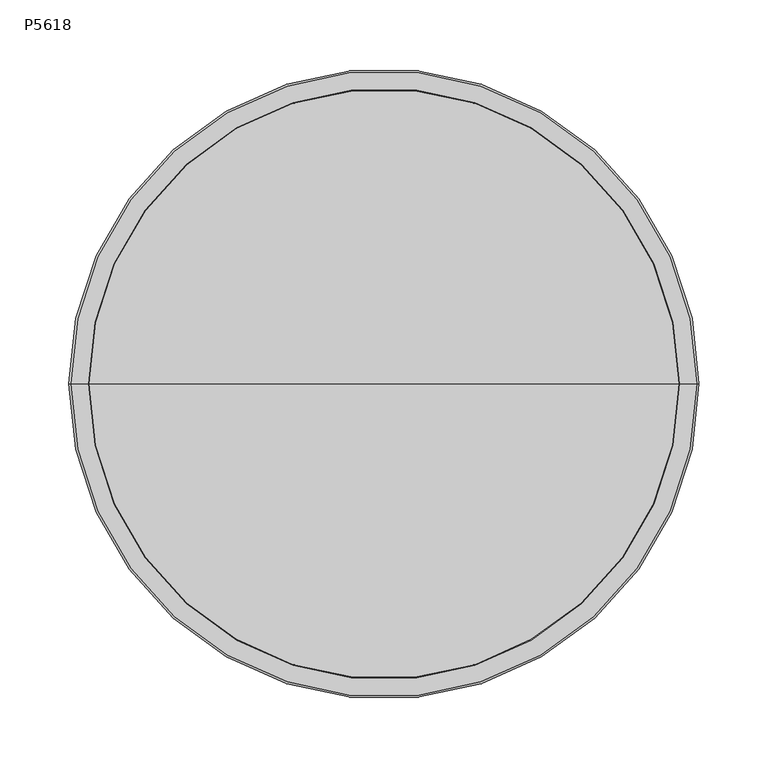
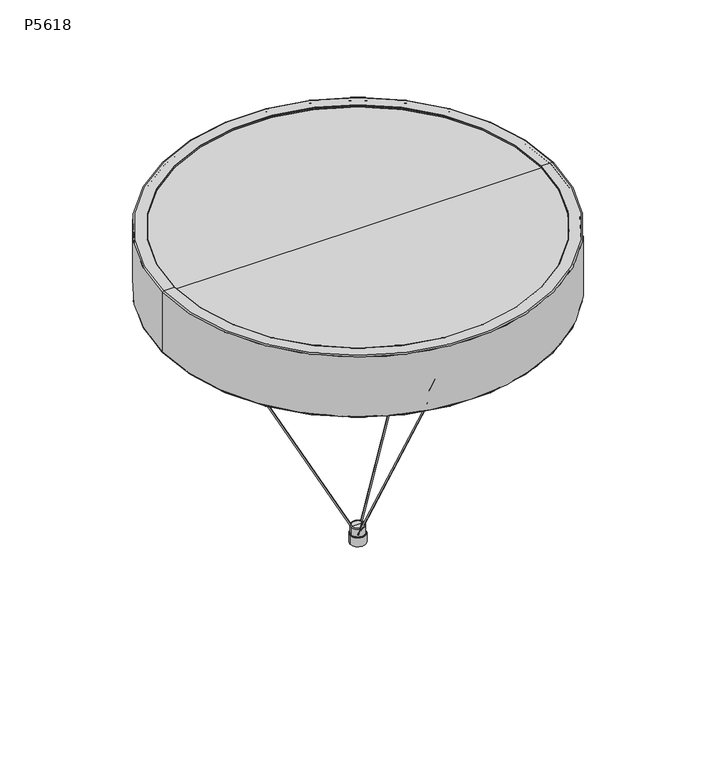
"""IFC4 building model written with IfcOpenShell, lengths in millimetres: light fixture geometry, Impact_Arch_Ltg-waf.r.3 : P5618."""

from ifc_helpers import new_model, si_unit, point, frame, origin, place, context, project, spatial, polyline, circle_curve, ellipse_curve, trimmed, outline, extrude, source, transform, mapped, element, save
from ifc_brep_helpers import plane_surface, cylinder_surface, revolved_surface, advanced_brep


def p5618_7612951a(model_context):
    return source(origin(), model_context, "Body", "SolidModel", [
        extrude(outline(polyline([(-142.7167228, 80.9607305), (-148.0781662, 84.0298999), (-147.406481, 85.2032472), (-142.0450376, 82.1340779), (-142.7167228, 80.9607305)])), frame((0.0, 0.0, 305.5676874), z_axis=(0.0, 0.0, 1.0), x_axis=(1.0, 0.0, 0.0)), (0.0, 0.0, 1.0), 10.7885392),
        advanced_brep(
        [(-139.9573745, 80.1188889, 312.8671987), (-149.9431288, 85.8352546, 312.8671987), (-149.9431288, 85.8352546, 324.2852963), (-139.9573745, 80.1188889, 324.2852963), (-140.3942286, 80.3689669, 312.3638296), (-149.5062747, 85.5851766, 312.3638296), (-144.9502517, 82.9770718, 312.3638296), (-144.9502517, 82.9770718, 324.2852963)],
        [
            (0, 1, circle_curve(frame((-144.9502517, 82.9770718, 312.8671987), z_axis=(0.0, 0.0, 1.0), x_axis=(-0.8678602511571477, 0.49680839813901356, 0.0)), 5.7530889)),
            (1, 2),
            (2, 3, circle_curve(frame((-144.9502517, 82.9770718, 324.2852963), z_axis=(0.0, 0.0, -1.0), x_axis=(-0.8678602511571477, 0.49680839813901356, 0.0)), 5.7530889)),
            (3, 0),
            (1, 0, circle_curve(frame((-144.9502517, 82.9770718, 312.8671987), z_axis=(0.0, 0.0, 1.0), x_axis=(-0.8678602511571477, 0.49680839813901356, 0.0)), 5.7530889)),
            (3, 2, circle_curve(frame((-144.9502517, 82.9770718, 324.2852963), z_axis=(0.0, 0.0, -1.0), x_axis=(-0.8678602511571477, 0.49680839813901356, 0.0)), 5.7530889)),
            (4, 5, circle_curve(frame((-144.9502517, 82.9770718, 312.3638296), z_axis=(0.0, 0.0, 1.0), x_axis=(-0.8678602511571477, 0.49680839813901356, 0.0)), 5.2497197)),
            (5, 1, circle_curve(frame((-149.5062747, 85.5851766, 312.8671987), z_axis=(0.49680839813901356, 0.8678602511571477, 0.0), x_axis=(0.8678602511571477, -0.49680839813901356, 0.0)), 0.5033692)),
            (0, 4, circle_curve(frame((-140.3942286, 80.3689669, 312.8671987), z_axis=(0.49680839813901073, 0.8678602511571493, 0.0), x_axis=(-0.8678602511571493, 0.49680839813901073, 0.0)), 0.5033692)),
            (5, 4, circle_curve(frame((-144.9502517, 82.9770718, 312.3638296), z_axis=(0.0, 0.0, 1.0), x_axis=(-0.8678602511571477, 0.49680839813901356, 0.0)), 5.2497197)),
            (6, 5),
            (4, 6),
            (2, 7),
            (7, 3),
        ],
        [
            cylinder_surface(frame((-144.9502517, 82.9770718, 326.1420888), z_axis=(0.0, 0.0, -1.0), x_axis=(-0.8678602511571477, 0.49680839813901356, 0.0)), 5.7530889),
            revolved_surface(trimmed(ellipse_curve(frame((-149.5062747, 85.5851766, 312.8671987), z_axis=(-0.49680839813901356, -0.8678602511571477, 0.0), x_axis=(0.8678602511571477, -0.49680839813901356, 0.0)), 0.5033692, 0.5033692), [point((-149.9431288, 85.8352546, 312.8671987))], [point((-149.5062747, 85.5851766, 312.3638296))], True, "CARTESIAN"), (-144.9502517, 82.9770718, 326.1420888), (0.0, 0.0, -1.0)),
            plane_surface(frame((-144.9502517, 82.9770718, 312.3638296), z_axis=(0.0, 0.0, -1.0), x_axis=(-0.8678602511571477, 0.49680839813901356, 0.0))),
            plane_surface(frame((-144.9502517, 82.9770718, 324.2852963), z_axis=(0.0, 0.0, 1.0), x_axis=(-0.8678602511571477, 0.49680839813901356, 0.0))),
        ],
        [
            (0, [[1, 2, 3, 4]]),
            (0, [[5, -4, 6, -2]]),
            (1, [[7, 8, -1, 9]]),
            (1, [[10, -9, -5, -8]]),
            (2, [[11, -7, 12]]),
            (2, [[-12, -10, -11]]),
            (3, [[-3, 13, 14]]),
            (3, [[-6, -14, -13]]),
        ],
    ),
        advanced_brep(
        [(-0.6789227, 0.3886507, 14.5666098), (0.519005, -0.2971055, 15.3507425), (0.0, 0.0, 14.7964922), (-129.8973104, 74.3599843, 276.6658339), (-128.6993827, 73.6742282, 277.4499667), (-129.2983465, 74.0171063, 277.0579003)],
        [
            (0, 1, circle_curve(frame((-0.0799588, 0.0457726, 14.9586761), z_axis=(0.4286725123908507, -0.24539446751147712, -0.8694949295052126), x_axis=(0.7546000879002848, -0.4319723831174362, 0.4939418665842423)), 0.79375)),
            (1, 2),
            (2, 0),
            (1, 0, circle_curve(frame((-0.0799588, 0.0457726, 14.9586761), z_axis=(0.4286725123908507, -0.24539446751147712, -0.8694949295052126), x_axis=(0.7546000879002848, -0.4319723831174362, 0.4939418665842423)), 0.79375)),
            (3, 4, circle_curve(frame((-129.2983465, 74.0171063, 277.0579003), z_axis=(0.4286725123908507, -0.24539446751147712, -0.8694949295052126), x_axis=(0.7546000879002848, -0.4319723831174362, 0.4939418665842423)), 0.79375)),
            (4, 1),
            (0, 3),
            (4, 3, circle_curve(frame((-129.2983465, 74.0171063, 277.0579003), z_axis=(0.4286725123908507, -0.24539446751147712, -0.8694949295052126), x_axis=(0.7546000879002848, -0.4319723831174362, 0.4939418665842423)), 0.79375)),
            (5, 4),
            (3, 5),
        ],
        [
            revolved_surface(polyline([(0.0, 0.0, 14.7964922), (0.519005, -0.2971055, 15.3507425)]), (-219.3892436, 125.5898269, 459.7931491), (-0.4286725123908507, 0.24539446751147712, 0.8694949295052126)),
            cylinder_surface(frame((-219.3892436, 125.5898269, 459.7931491), z_axis=(-0.4286725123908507, 0.24539446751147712, 0.8694949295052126), x_axis=(0.7546000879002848, -0.4319723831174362, 0.4939418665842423)), 0.79375),
            plane_surface(frame((-129.2983465, 74.0171063, 277.0579003), z_axis=(-0.42867251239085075, 0.24539446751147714, 0.8694949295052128), x_axis=(0.7546000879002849, -0.43197238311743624, 0.49394186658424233))),
        ],
        [
            (0, [[1, 2, 3]]),
            (0, [[4, -3, -2]]),
            (1, [[5, 6, -1, 7]]),
            (1, [[8, -7, -4, -6]]),
            (2, [[9, -5, 10]]),
            (2, [[-10, -8, -9]]),
        ],
    ),
        advanced_brep(
        [(-130.6460151, 74.7885819, 276.175751), (-127.950678, 73.2456306, 277.9400496), (-129.2983465, 74.0171063, 277.0579003), (-134.0486032, 76.7364005, 283.077367), (-131.353266, 75.1934492, 284.8416656), (-132.7009346, 75.9649248, 283.9595163)],
        [
            (0, 1, circle_curve(frame((-129.2983465, 74.0171063, 277.0579003), z_axis=(0.42867251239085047, -0.24539446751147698, -0.8694949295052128), x_axis=(0.754600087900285, -0.4319723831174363, 0.493941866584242)), 1.7859375)),
            (1, 2),
            (2, 0),
            (1, 0, circle_curve(frame((-129.2983465, 74.0171063, 277.0579003), z_axis=(0.42867251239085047, -0.24539446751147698, -0.8694949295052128), x_axis=(0.754600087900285, -0.4319723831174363, 0.493941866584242)), 1.7859375)),
            (3, 4, circle_curve(frame((-132.7009346, 75.9649248, 283.9595163), z_axis=(0.42867251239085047, -0.24539446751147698, -0.8694949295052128), x_axis=(0.754600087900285, -0.4319723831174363, 0.493941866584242)), 1.7859375)),
            (4, 1),
            (0, 3),
            (4, 3, circle_curve(frame((-132.7009346, 75.9649248, 283.9595163), z_axis=(0.42867251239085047, -0.24539446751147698, -0.8694949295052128), x_axis=(0.754600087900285, -0.4319723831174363, 0.493941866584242)), 1.7859375)),
            (5, 4),
            (3, 5),
        ],
        [
            plane_surface(frame((-129.2983465, 74.0171063, 277.0579003), z_axis=(0.42867251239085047, -0.24539446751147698, -0.8694949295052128), x_axis=(0.754600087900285, -0.4319723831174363, 0.493941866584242))),
            cylinder_surface(frame((-209.4508331, 119.9005632, 439.6346427), z_axis=(-0.42867251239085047, 0.24539446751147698, 0.8694949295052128), x_axis=(0.754600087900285, -0.4319723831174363, 0.493941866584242)), 1.7859375),
            plane_surface(frame((-132.7009346, 75.9649248, 283.9595163), z_axis=(-0.42867251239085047, 0.24539446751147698, 0.8694949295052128), x_axis=(0.754600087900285, -0.4319723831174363, 0.493941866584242))),
        ],
        [
            (0, [[1, 2, 3]]),
            (0, [[4, -3, -2]]),
            (1, [[5, 6, -1, 7]]),
            (1, [[8, -7, -4, -6]]),
            (2, [[9, -5, 10]]),
            (2, [[-10, -8, -9]]),
        ],
    ),
        advanced_brep(
        [(-136.5941994, 78.1936324, 281.411085), (-128.8076698, 73.7362173, 286.5079476), (-132.7009346, 75.9649248, 283.9595163), (-148.8435165, 85.2057793, 306.2569026), (-141.0569868, 80.7483642, 311.3537652), (-144.9502517, 82.9770718, 308.8053339)],
        [
            (0, 1, circle_curve(frame((-132.7009346, 75.9649248, 283.9595163), z_axis=(0.4286725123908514, -0.24539446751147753, -0.8694949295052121), x_axis=(0.7546000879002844, -0.43197238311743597, 0.4939418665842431)), 5.159375)),
            (1, 2),
            (2, 0),
            (1, 0, circle_curve(frame((-132.7009346, 75.9649248, 283.9595163), z_axis=(0.4286725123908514, -0.24539446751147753, -0.8694949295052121), x_axis=(0.7546000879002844, -0.43197238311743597, 0.4939418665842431)), 5.159375)),
            (3, 4, circle_curve(frame((-144.9502517, 82.9770718, 308.8053339), z_axis=(0.4286725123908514, -0.24539446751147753, -0.8694949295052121), x_axis=(0.7546000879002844, -0.43197238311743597, 0.4939418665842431)), 5.159375)),
            (4, 1),
            (0, 3),
            (4, 3, circle_curve(frame((-144.9502517, 82.9770718, 308.8053339), z_axis=(0.4286725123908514, -0.24539446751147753, -0.8694949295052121), x_axis=(0.7546000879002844, -0.43197238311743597, 0.4939418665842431)), 5.159375)),
            (5, 4),
            (3, 5),
        ],
        [
            plane_surface(frame((-132.7009346, 75.9649248, 283.9595163), z_axis=(0.4286725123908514, -0.24539446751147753, -0.8694949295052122), x_axis=(0.7546000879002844, -0.43197238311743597, 0.4939418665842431))),
            cylinder_surface(frame((-125.3859404, 71.7774413, 269.1221983), z_axis=(-0.4286725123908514, 0.24539446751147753, 0.8694949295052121), x_axis=(0.7546000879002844, -0.43197238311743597, 0.4939418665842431)), 5.159375),
            plane_surface(frame((-144.9502517, 82.9770718, 308.8053339), z_axis=(-0.4286725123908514, 0.24539446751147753, 0.8694949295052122), x_axis=(0.7546000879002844, -0.43197238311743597, 0.4939418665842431))),
        ],
        [
            (0, [[1, 2, 3]]),
            (0, [[4, -3, -2]]),
            (1, [[5, 6, -1, 7]]),
            (1, [[8, -7, -4, -6]]),
            (2, [[9, -5, 10]]),
            (2, [[-10, -8, -9]]),
        ],
    ),
        extrude(outline(polyline([(141.1654664, 83.6362), (146.4926865, 86.7643945), (147.1772893, 85.5985369), (141.8500691, 82.4703424), (141.1654664, 83.6362)])), frame((0.0, 0.0, 305.5676874), z_axis=(0.0, 0.0, 1.0), x_axis=(1.0, 0.0, 0.0)), (0.0, 0.0, 1.0), 10.7885392),
        advanced_brep(
        [(139.063998, 81.6597053, 312.8671987), (148.9860113, 87.4860061, 312.8671987), (148.9860113, 87.4860061, 324.2852963), (139.063998, 81.6597053, 324.2852963), (139.4980636, 81.9145928, 312.3638296), (148.5519457, 87.2311187, 312.3638296), (144.0250047, 84.5728557, 312.3638296), (144.0250047, 84.5728557, 324.2852963)],
        [
            (0, 1, circle_curve(frame((144.0250047, 84.5728557, 312.8671987), z_axis=(0.0, 0.0, 1.0), x_axis=(0.862320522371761, 0.5063628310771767, 0.0)), 5.7530889)),
            (1, 2),
            (2, 3, circle_curve(frame((144.0250047, 84.5728557, 324.2852963), z_axis=(0.0, 0.0, -1.0), x_axis=(0.862320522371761, 0.5063628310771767, 0.0)), 5.7530889)),
            (3, 0),
            (1, 0, circle_curve(frame((144.0250047, 84.5728557, 312.8671987), z_axis=(0.0, 0.0, 1.0), x_axis=(0.862320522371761, 0.5063628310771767, 0.0)), 5.7530889)),
            (3, 2, circle_curve(frame((144.0250047, 84.5728557, 324.2852963), z_axis=(0.0, 0.0, -1.0), x_axis=(0.862320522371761, 0.5063628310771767, 0.0)), 5.7530889)),
            (4, 5, circle_curve(frame((144.0250047, 84.5728557, 312.3638296), z_axis=(0.0, 0.0, 1.0), x_axis=(0.862320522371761, 0.5063628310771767, 0.0)), 5.2497197)),
            (5, 1, circle_curve(frame((148.5519457, 87.2311187, 312.8671987), z_axis=(0.5063628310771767, -0.862320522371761, 0.0), x_axis=(-0.862320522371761, -0.5063628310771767, 0.0)), 0.5033692)),
            (0, 4, circle_curve(frame((139.4980636, 81.9145928, 312.8671987), z_axis=(0.5063628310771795, -0.8623205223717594, 0.0), x_axis=(0.8623205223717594, 0.5063628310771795, 0.0)), 0.5033692)),
            (5, 4, circle_curve(frame((144.0250047, 84.5728557, 312.3638296), z_axis=(0.0, 0.0, 1.0), x_axis=(0.862320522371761, 0.5063628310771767, 0.0)), 5.2497197)),
            (6, 5),
            (4, 6),
            (2, 7),
            (7, 3),
        ],
        [
            cylinder_surface(frame((144.0250047, 84.5728557, 326.1420888), z_axis=(0.0, 0.0, -1.0), x_axis=(0.862320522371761, 0.5063628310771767, 0.0)), 5.7530889),
            revolved_surface(trimmed(ellipse_curve(frame((148.5519457, 87.2311187, 312.8671987), z_axis=(-0.5063628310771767, 0.862320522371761, 0.0), x_axis=(-0.862320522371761, -0.5063628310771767, 0.0)), 0.5033692, 0.5033692), [point((148.9860113, 87.4860061, 312.8671987))], [point((148.5519457, 87.2311187, 312.3638296))], True, "CARTESIAN"), (144.0250047, 84.5728557, 326.1420888), (0.0, 0.0, -1.0)),
            plane_surface(frame((144.0250047, 84.5728557, 312.3638296), z_axis=(0.0, 0.0, -1.0000000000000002), x_axis=(0.862320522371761, 0.5063628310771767, 0.0))),
            plane_surface(frame((144.0250047, 84.5728557, 324.2852963), z_axis=(0.0, 0.0, 1.0000000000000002), x_axis=(0.862320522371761, 0.5063628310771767, 0.0))),
        ],
        [
            (0, [[1, 2, 3, 4]]),
            (0, [[5, -4, 6, -2]]),
            (1, [[7, 8, -1, 9]]),
            (1, [[10, -9, -5, -8]]),
            (2, [[11, -7, 12]]),
            (2, [[-12, -10, -11]]),
            (3, [[-3, 13, 14]]),
            (3, [[-6, -14, -13]]),
        ],
    ),
        advanced_brep(
        [(0.674589, 0.3961251, 14.5666098), (-0.5156921, -0.3028193, 15.3507425), (0.0, 0.0, 14.7964922), (129.0681494, 75.7900477, 276.6658339), (127.8778684, 75.0911033, 277.4499667), (128.4730089, 75.4405755, 277.0579003)],
        [
            (0, 1, circle_curve(frame((0.0794484, 0.0466529, 14.9586761), z_axis=(-0.42593620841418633, -0.25011380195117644, -0.8694949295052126), x_axis=(-0.7497833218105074, -0.44027991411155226, 0.4939418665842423)), 0.79375)),
            (1, 2),
            (2, 0),
            (1, 0, circle_curve(frame((0.0794484, 0.0466529, 14.9586761), z_axis=(-0.42593620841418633, -0.25011380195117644, -0.8694949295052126), x_axis=(-0.7497833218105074, -0.44027991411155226, 0.4939418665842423)), 0.79375)),
            (3, 4, circle_curve(frame((128.4730089, 75.4405755, 277.0579003), z_axis=(-0.42593620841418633, -0.25011380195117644, -0.8694949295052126), x_axis=(-0.7497833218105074, -0.44027991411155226, 0.4939418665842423)), 0.79375)),
            (4, 1),
            (0, 3),
            (4, 3, circle_curve(frame((128.4730089, 75.4405755, 277.0579003), z_axis=(-0.42593620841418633, -0.25011380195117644, -0.8694949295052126), x_axis=(-0.7497833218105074, -0.44027991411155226, 0.4939418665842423)), 0.79375)),
            (5, 4),
            (3, 5),
        ],
        [
            revolved_surface(polyline([(0.0, 0.0, 14.7964922), (-0.5156921, -0.3028193, 15.3507425)]), (217.9888374, 128.0051234, 459.7931491), (0.42593620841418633, 0.25011380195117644, 0.8694949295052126)),
            cylinder_surface(frame((217.9888374, 128.0051234, 459.7931491), z_axis=(0.42593620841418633, 0.25011380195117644, 0.8694949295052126), x_axis=(-0.7497833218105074, -0.44027991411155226, 0.4939418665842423)), 0.79375),
            plane_surface(frame((128.4730089, 75.4405755, 277.0579003), z_axis=(0.4259362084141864, 0.2501138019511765, 0.8694949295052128), x_axis=(-0.7497833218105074, -0.4402799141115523, 0.49394186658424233))),
        ],
        [
            (0, [[1, 2, 3]]),
            (0, [[4, -3, -2]]),
            (1, [[5, 6, -1, 7]]),
            (1, [[8, -7, -4, -6]]),
            (2, [[9, -5, 10]]),
            (2, [[-10, -8, -9]]),
        ],
    ),
        advanced_brep(
        [(129.812075, 76.2268879, 276.175751), (127.1339427, 74.6542631, 277.9400496), (128.4730089, 75.4405755, 277.0579003), (133.1929437, 78.2121662, 283.077367), (130.5148114, 76.6395414, 284.8416656), (131.8538775, 77.4258538, 283.9595163)],
        [
            (0, 1, circle_curve(frame((128.4730089, 75.4405755, 277.0579003), z_axis=(-0.42593620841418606, -0.25011380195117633, -0.8694949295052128), x_axis=(-0.7497833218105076, -0.4402799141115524, 0.493941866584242)), 1.7859375)),
            (1, 2),
            (2, 0),
            (1, 0, circle_curve(frame((128.4730089, 75.4405755, 277.0579003), z_axis=(-0.42593620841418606, -0.25011380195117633, -0.8694949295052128), x_axis=(-0.7497833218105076, -0.4402799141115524, 0.493941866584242)), 1.7859375)),
            (3, 4, circle_curve(frame((131.8538775, 77.4258538, 283.9595163), z_axis=(-0.42593620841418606, -0.25011380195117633, -0.8694949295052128), x_axis=(-0.7497833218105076, -0.4402799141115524, 0.493941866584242)), 1.7859375)),
            (4, 1),
            (0, 3),
            (4, 3, circle_curve(frame((131.8538775, 77.4258538, 283.9595163), z_axis=(-0.42593620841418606, -0.25011380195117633, -0.8694949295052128), x_axis=(-0.7497833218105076, -0.4402799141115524, 0.493941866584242)), 1.7859375)),
            (5, 4),
            (3, 5),
        ],
        [
            plane_surface(frame((128.4730089, 75.4405755, 277.0579003), z_axis=(-0.42593620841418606, -0.25011380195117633, -0.869494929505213), x_axis=(-0.7497833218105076, -0.4402799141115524, 0.493941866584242))),
            cylinder_surface(frame((208.1138657, 122.2064459, 439.6346427), z_axis=(0.42593620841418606, 0.25011380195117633, 0.8694949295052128), x_axis=(-0.7497833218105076, -0.4402799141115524, 0.493941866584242)), 1.7859375),
            plane_surface(frame((131.8538775, 77.4258538, 283.9595163), z_axis=(0.42593620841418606, 0.25011380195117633, 0.869494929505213), x_axis=(-0.7497833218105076, -0.4402799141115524, 0.493941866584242))),
        ],
        [
            (0, [[1, 2, 3]]),
            (0, [[4, -3, -2]]),
            (1, [[5, 6, -1, 7]]),
            (1, [[8, -7, -4, -6]]),
            (2, [[9, -5, 10]]),
            (2, [[-10, -8, -9]]),
        ],
    ),
        advanced_brep(
        [(135.7222908, 79.697423, 281.411085), (127.9854642, 75.1542846, 286.5079476), (131.8538775, 77.4258538, 283.9595163), (147.893418, 86.8444249, 306.2569026), (140.1565913, 82.3012865, 311.3537652), (144.0250047, 84.5728557, 308.8053339)],
        [
            (0, 1, circle_curve(frame((131.8538775, 77.4258538, 283.9595163), z_axis=(-0.42593620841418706, -0.2501138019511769, -0.8694949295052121), x_axis=(-0.749783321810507, -0.44027991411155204, 0.4939418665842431)), 5.159375)),
            (1, 2),
            (2, 0),
            (1, 0, circle_curve(frame((131.8538775, 77.4258538, 283.9595163), z_axis=(-0.42593620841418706, -0.2501138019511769, -0.8694949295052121), x_axis=(-0.749783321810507, -0.44027991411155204, 0.4939418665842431)), 5.159375)),
            (3, 4, circle_curve(frame((144.0250047, 84.5728557, 308.8053339), z_axis=(-0.42593620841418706, -0.2501138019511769, -0.8694949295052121), x_axis=(-0.749783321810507, -0.44027991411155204, 0.4939418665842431)), 5.159375)),
            (4, 1),
            (0, 3),
            (4, 3, circle_curve(frame((144.0250047, 84.5728557, 308.8053339), z_axis=(-0.42593620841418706, -0.2501138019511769, -0.8694949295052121), x_axis=(-0.749783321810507, -0.44027991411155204, 0.4939418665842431)), 5.159375)),
            (5, 4),
            (3, 5),
        ],
        [
            plane_surface(frame((131.8538775, 77.4258538, 283.9595163), z_axis=(-0.42593620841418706, -0.2501138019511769, -0.8694949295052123), x_axis=(-0.749783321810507, -0.44027991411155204, 0.4939418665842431))),
            cylinder_surface(frame((124.5855764, 73.1578381, 269.1221983), z_axis=(0.42593620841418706, 0.2501138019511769, 0.8694949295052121), x_axis=(-0.749783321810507, -0.44027991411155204, 0.4939418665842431)), 5.159375),
            plane_surface(frame((144.0250047, 84.5728557, 308.8053339), z_axis=(0.42593620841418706, 0.2501138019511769, 0.8694949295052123), x_axis=(-0.749783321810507, -0.44027991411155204, 0.4939418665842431))),
        ],
        [
            (0, [[1, 2, 3]]),
            (0, [[4, -3, -2]]),
            (1, [[5, 6, -1, 7]]),
            (1, [[8, -7, -4, -6]]),
            (2, [[9, -5, 10]]),
            (2, [[-10, -8, -9]]),
        ],
    ),
        extrude(outline(polyline([(0.6402665, -164.0801417), (0.6402665, -170.2579144), (-0.7117338, -170.2579144), (-0.7117338, -164.0801417), (0.6402665, -164.0801417)])), frame((0.0, 0.0, 305.5676874), z_axis=(0.0, 0.0, 1.0), x_axis=(1.0, 0.0, 0.0)), (0.0, 0.0, 1.0), 10.7885392),
        advanced_brep(
        [(0.0, -161.267179, 312.8671987), (0.0, -172.7733568, 312.8671987), (0.0, -172.7733568, 324.2852963), (0.0, -161.267179, 324.2852963), (0.0, -161.7705482, 312.3638296), (0.0, -172.2699876, 312.3638296), (0.0, -167.0202679, 312.3638296), (0.0, -167.0202679, 324.2852963)],
        [
            (0, 1, circle_curve(frame((0.0, -167.0202679, 312.8671987), z_axis=(0.0, 0.0, 1.0), x_axis=(0.0, -1.0, 0.0)), 5.7530889)),
            (1, 2),
            (2, 3, circle_curve(frame((0.0, -167.0202679, 324.2852963), z_axis=(0.0, 0.0, -1.0), x_axis=(0.0, -1.0, 0.0)), 5.7530889)),
            (3, 0),
            (1, 0, circle_curve(frame((0.0, -167.0202679, 312.8671987), z_axis=(0.0, 0.0, 1.0), x_axis=(0.0, -1.0, 0.0)), 5.7530889)),
            (3, 2, circle_curve(frame((0.0, -167.0202679, 324.2852963), z_axis=(0.0, 0.0, -1.0), x_axis=(0.0, -1.0, 0.0)), 5.7530889)),
            (4, 5, circle_curve(frame((0.0, -167.0202679, 312.3638296), z_axis=(0.0, 0.0, 1.0), x_axis=(0.0, -1.0, 0.0)), 5.2497197)),
            (5, 1, circle_curve(frame((0.0, -172.2699876, 312.8671987), z_axis=(-1.0, 0.0, 0.0), x_axis=(0.0, 1.0, 0.0)), 0.5033692)),
            (0, 4, circle_curve(frame((0.0, -161.7705482, 312.8671987), z_axis=(-1.0, 0.0, 0.0), x_axis=(0.0, -1.0, 0.0)), 0.5033692)),
            (5, 4, circle_curve(frame((0.0, -167.0202679, 312.3638296), z_axis=(0.0, 0.0, 1.0), x_axis=(0.0, -1.0, 0.0)), 5.2497197)),
            (6, 5),
            (4, 6),
            (2, 7),
            (7, 3),
        ],
        [
            cylinder_surface(frame((0.0, -167.0202679, 326.1420888), z_axis=(0.0, 0.0, -1.0), x_axis=(0.0, -1.0, 0.0)), 5.7530889),
            revolved_surface(trimmed(ellipse_curve(frame((0.0, -172.2699876, 312.8671987), z_axis=(1.0, 0.0, 0.0), x_axis=(0.0, 1.0, 0.0)), 0.5033692, 0.5033692), [point((0.0, -172.7733568, 312.8671987))], [point((0.0, -172.2699876, 312.3638296))], True, "CARTESIAN"), (0.0, -167.0202679, 326.1420888), (0.0, 0.0, -1.0)),
            plane_surface(frame((0.0, -167.0202679, 312.3638296), z_axis=(0.0, 0.0, -1.0), x_axis=(0.0, -1.0, 0.0))),
            plane_surface(frame((0.0, -167.0202679, 324.2852963), z_axis=(0.0, 0.0, 1.0), x_axis=(0.0, -1.0, 0.0))),
        ],
        [
            (0, [[1, 2, 3, 4]]),
            (0, [[5, -4, 6, -2]]),
            (1, [[7, 8, -1, 9]]),
            (1, [[10, -9, -5, -8]]),
            (2, [[11, -7, 12]]),
            (2, [[-12, -10, -11]]),
            (3, [[-3, 13, 14]]),
            (3, [[-6, -14, -13]]),
        ],
    ),
        advanced_brep(
        [(0.0, -0.7822949, 14.5666098), (0.0, 0.5980283, 15.3507425), (0.0, 0.0, 14.7964922), (0.0, -149.6753771, 276.6658339), (0.0, -148.2950539, 277.4499667), (0.0, -148.9852155, 277.0579003)],
        [
            (0, 1, circle_curve(frame((0.0, -0.0921333, 14.9586761), z_axis=(0.0, 0.4939418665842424, -0.8694949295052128), x_axis=(0.0, 0.8694949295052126, 0.4939418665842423)), 0.79375)),
            (1, 2),
            (2, 0),
            (1, 0, circle_curve(frame((0.0, -0.0921333, 14.9586761), z_axis=(0.0, 0.4939418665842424, -0.8694949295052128), x_axis=(0.0, 0.8694949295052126, 0.4939418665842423)), 0.79375)),
            (3, 4, circle_curve(frame((0.0, -148.9852155, 277.0579003), z_axis=(0.0, 0.4939418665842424, -0.8694949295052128), x_axis=(0.0, 0.8694949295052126, 0.4939418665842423)), 0.79375)),
            (4, 1),
            (0, 3),
            (4, 3, circle_curve(frame((0.0, -148.9852155, 277.0579003), z_axis=(0.0, 0.4939418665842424, -0.8694949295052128), x_axis=(0.0, 0.8694949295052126, 0.4939418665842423)), 0.79375)),
            (5, 4),
            (3, 5),
        ],
        [
            revolved_surface(polyline([(0.0, 0.0, 14.7964922), (0.0, 0.5980283, 15.3507425)]), (0.0, -252.7932848, 459.7931491), (0.0, -0.4939418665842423, 0.8694949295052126)),
            cylinder_surface(frame((0.0, -252.7932848, 459.7931491), z_axis=(0.0, -0.4939418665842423, 0.8694949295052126), x_axis=(0.0, 0.8694949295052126, 0.4939418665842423)), 0.79375),
            plane_surface(frame((0.0, -148.9852155, 277.0579003), z_axis=(0.0, -0.49394186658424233, 0.8694949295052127), x_axis=(0.0, 0.8694949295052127, 0.49394186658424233))),
        ],
        [
            (0, [[1, 2, 3]]),
            (0, [[4, -3, -2]]),
            (1, [[5, 6, -1, 7]]),
            (1, [[8, -7, -4, -6]]),
            (2, [[9, -5, 10]]),
            (2, [[-10, -8, -9]]),
        ],
    ),
        advanced_brep(
        [(0.0, -150.5380791, 276.175751), (0.0, -147.4323519, 277.9400496), (0.0, -148.9852155, 277.0579003), (0.0, -154.4587427, 283.077367), (0.0, -151.3530155, 284.8416656), (0.0, -152.9058791, 283.9595163)],
        [
            (0, 1, circle_curve(frame((0.0, -148.9852155, 277.0579003), z_axis=(0.0, 0.493941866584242, -0.8694949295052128), x_axis=(0.0, 0.8694949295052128, 0.493941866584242)), 1.7859375)),
            (1, 2),
            (2, 0),
            (1, 0, circle_curve(frame((0.0, -148.9852155, 277.0579003), z_axis=(0.0, 0.493941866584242, -0.8694949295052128), x_axis=(0.0, 0.8694949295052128, 0.493941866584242)), 1.7859375)),
            (3, 4, circle_curve(frame((0.0, -152.9058791, 283.9595163), z_axis=(0.0, 0.493941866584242, -0.8694949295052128), x_axis=(0.0, 0.8694949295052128, 0.493941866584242)), 1.7859375)),
            (4, 1),
            (0, 3),
            (4, 3, circle_curve(frame((0.0, -152.9058791, 283.9595163), z_axis=(0.0, 0.493941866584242, -0.8694949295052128), x_axis=(0.0, 0.8694949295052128, 0.493941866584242)), 1.7859375)),
            (5, 4),
            (3, 5),
        ],
        [
            plane_surface(frame((0.0, -148.9852155, 277.0579003), z_axis=(0.0, 0.493941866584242, -0.8694949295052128), x_axis=(0.0, 0.8694949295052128, 0.493941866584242))),
            cylinder_surface(frame((0.0, -241.3416593, 439.6346427), z_axis=(0.0, -0.493941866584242, 0.8694949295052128), x_axis=(0.0, 0.8694949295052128, 0.493941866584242)), 1.7859375),
            plane_surface(frame((0.0, -152.9058791, 283.9595163), z_axis=(0.0, -0.493941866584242, 0.8694949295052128), x_axis=(0.0, 0.8694949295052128, 0.493941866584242))),
        ],
        [
            (0, [[1, 2, 3]]),
            (0, [[4, -3, -2]]),
            (1, [[5, 6, -1, 7]]),
            (1, [[8, -7, -4, -6]]),
            (2, [[9, -5, 10]]),
            (2, [[-10, -8, -9]]),
        ],
    ),
        advanced_brep(
        [(0.0, -157.3919295, 281.411085), (0.0, -148.4198287, 286.5079476), (0.0, -152.9058791, 283.9595163), (0.0, -171.5063183, 306.2569026), (0.0, -162.5342175, 311.3537652), (0.0, -167.0202679, 308.8053339)],
        [
            (0, 1, circle_curve(frame((0.0, -152.9058791, 283.9595163), z_axis=(0.0, 0.4939418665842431, -0.8694949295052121), x_axis=(0.0, 0.8694949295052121, 0.4939418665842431)), 5.159375)),
            (1, 2),
            (2, 0),
            (1, 0, circle_curve(frame((0.0, -152.9058791, 283.9595163), z_axis=(0.0, 0.4939418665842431, -0.8694949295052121), x_axis=(0.0, 0.8694949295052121, 0.4939418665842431)), 5.159375)),
            (3, 4, circle_curve(frame((0.0, -167.0202679, 308.8053339), z_axis=(0.0, 0.4939418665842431, -0.8694949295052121), x_axis=(0.0, 0.8694949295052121, 0.4939418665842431)), 5.159375)),
            (4, 1),
            (0, 3),
            (4, 3, circle_curve(frame((0.0, -167.0202679, 308.8053339), z_axis=(0.0, 0.4939418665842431, -0.8694949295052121), x_axis=(0.0, 0.8694949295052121, 0.4939418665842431)), 5.159375)),
            (5, 4),
            (3, 5),
        ],
        [
            plane_surface(frame((0.0, -152.9058791, 283.9595163), z_axis=(0.0, 0.4939418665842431, -0.8694949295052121), x_axis=(0.0, 0.8694949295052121, 0.4939418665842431))),
            cylinder_surface(frame((0.0, -144.4771093, 269.1221983), z_axis=(0.0, -0.4939418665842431, 0.8694949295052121), x_axis=(0.0, 0.8694949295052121, 0.4939418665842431)), 5.159375),
            plane_surface(frame((0.0, -167.0202679, 308.8053339), z_axis=(0.0, -0.4939418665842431, 0.8694949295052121), x_axis=(0.0, 0.8694949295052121, 0.4939418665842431))),
        ],
        [
            (0, [[1, 2, 3]]),
            (0, [[4, -3, -2]]),
            (1, [[5, 6, -1, 7]]),
            (1, [[8, -7, -4, -6]]),
            (2, [[9, -5, 10]]),
            (2, [[-10, -8, -9]]),
        ],
    ),
        advanced_brep(
        [(-226.0242615, 0.0, 326.1995), (226.0242615, 0.0, 326.1995), (226.0242615, 0.0, 324.0913), (-226.0242615, 0.0, 324.0913), (0.0, 0.0, 324.0913), (0.0, 0.0, 326.1995)],
        [
            (0, 1, circle_curve(frame((0.0, 0.0, 326.1995), z_axis=(0.0, 0.0, -1.0), x_axis=(1.0, 0.0, 0.0)), 226.0242615)),
            (1, 2),
            (2, 3, circle_curve(frame((0.0, 0.0, 324.0913), z_axis=(0.0, 0.0, 1.0), x_axis=(1.0, 0.0, 0.0)), 226.0242615)),
            (3, 0),
            (1, 0, circle_curve(frame((0.0, 0.0, 326.1995), z_axis=(0.0, 0.0, -1.0), x_axis=(1.0, 0.0, 0.0)), 226.0242615)),
            (3, 2, circle_curve(frame((0.0, 0.0, 324.0913), z_axis=(0.0, 0.0, 1.0), x_axis=(1.0, 0.0, 0.0)), 226.0242615)),
            (2, 4),
            (4, 3),
            (5, 1),
            (0, 5),
        ],
        [
            cylinder_surface(frame((0.0, 0.0, 327.3163161), z_axis=(0.0, 0.0, 1.0), x_axis=(1.0, 0.0, 0.0)), 226.0242615),
            plane_surface(frame((0.0, 0.0, 324.0913), z_axis=(0.0, 0.0, -1.0), x_axis=(1.0, 0.0, 0.0))),
            plane_surface(frame((0.0, 0.0, 326.1995), z_axis=(0.0, 0.0, 1.0), x_axis=(1.0, 0.0, 0.0))),
        ],
        [
            (0, [[1, 2, 3, 4]]),
            (0, [[5, -4, 6, -2]]),
            (1, [[-3, 7, 8]]),
            (1, [[-6, -8, -7]]),
            (2, [[9, -1, 10]]),
            (2, [[-10, -5, -9]]),
        ],
    ),
        advanced_brep(
        [(-216.096004, 0.0, 393.7635), (216.096004, 0.0, 393.7635), (216.096004, 0.0, 390.7663), (-216.096004, 0.0, 390.7663), (0.0, 0.0, 393.7635), (0.0, 0.0, 390.7663)],
        [
            (0, 1, circle_curve(frame((0.0, 0.0, 393.7635), z_axis=(0.0, 0.0, -1.0), x_axis=(1.0, 0.0, 0.0)), 216.096004)),
            (1, 2),
            (2, 3, circle_curve(frame((0.0, 0.0, 390.7663), z_axis=(0.0, 0.0, 1.0), x_axis=(1.0, 0.0, 0.0)), 216.096004)),
            (3, 0),
            (1, 0, circle_curve(frame((0.0, 0.0, 393.7635), z_axis=(0.0, 0.0, -1.0), x_axis=(1.0, 0.0, 0.0)), 216.096004)),
            (3, 2, circle_curve(frame((0.0, 0.0, 390.7663), z_axis=(0.0, 0.0, 1.0), x_axis=(1.0, 0.0, 0.0)), 216.096004)),
            (4, 1),
            (0, 4),
            (2, 5),
            (5, 3),
        ],
        [
            cylinder_surface(frame((0.0, 0.0, 403.2245462), z_axis=(0.0, 0.0, 1.0), x_axis=(1.0, 0.0, 0.0)), 216.096004),
            plane_surface(frame((0.0, 0.0, 393.7635), z_axis=(0.0, 0.0, 1.0), x_axis=(1.0, 0.0, 0.0))),
            plane_surface(frame((0.0, 0.0, 390.7663), z_axis=(0.0, 0.0, -1.0), x_axis=(1.0, 0.0, 0.0))),
        ],
        [
            (0, [[1, 2, 3, 4]]),
            (0, [[5, -4, 6, -2]]),
            (1, [[7, -1, 8]]),
            (1, [[-8, -5, -7]]),
            (2, [[-3, 9, 10]]),
            (2, [[-6, -10, -9]]),
        ],
    ),
        advanced_brep(
        [(-144.4422196, 0.0, 323.5698751), (144.4422196, 0.0, 323.5698751), (146.0959682, 0.0, 324.0913), (-146.0959682, 0.0, 324.0913), (-101.0348362, 0.0, 293.1756979), (101.0348362, 0.0, 293.1756979), (-99.5162831, 0.0, 292.6969), (99.5162831, 0.0, 292.6969), (0.0, 0.0, 292.6969), (-99.9761841, 0.0, 291.0713), (99.9761841, 0.0, 291.0713), (0.0, 0.0, 291.0713), (-101.6303499, 0.0, 291.5928565), (101.6303499, 0.0, 291.5928565), (-145.2654931, 0.0, 322.1465127), (145.2654931, 0.0, 322.1465127), (-146.2778259, 0.0, 322.4657), (146.2778259, 0.0, 322.4657), (-158.75, 0.0, 322.4657), (158.75, 0.0, 322.4657), (-158.75, 0.0, 324.0913), (158.75, 0.0, 324.0913)],
        [
            (0, 1, circle_curve(frame((0.0, 0.0, 323.5698751), z_axis=(0.0, 0.0, -1.0), x_axis=(1.0, 0.0, 0.0)), 144.4422196)),
            (1, 2, circle_curve(frame((146.0959682, 0.0, 321.2080773), z_axis=(0.0, 1.0, 0.0), x_axis=(1.0, 0.0, 0.0)), 2.8832227)),
            (2, 3, circle_curve(frame((0.0, 0.0, 324.0913), z_axis=(0.0, 0.0, 1.0), x_axis=(1.0, 0.0, 0.0)), 146.0959682)),
            (3, 0, circle_curve(frame((-146.0959682, 0.0, 321.2080773), z_axis=(0.0, 1.0, 0.0), x_axis=(-1.0, 0.0, 0.0)), 2.8832227)),
            (1, 0, circle_curve(frame((0.0, 0.0, 323.5698751), z_axis=(0.0, 0.0, -1.0), x_axis=(1.0, 0.0, 0.0)), 144.4422196)),
            (3, 2, circle_curve(frame((0.0, 0.0, 324.0913), z_axis=(0.0, 0.0, 1.0), x_axis=(1.0, 0.0, 0.0)), 146.0959682)),
            (4, 5, circle_curve(frame((0.0, 0.0, 293.1756979), z_axis=(0.0, 0.0, -1.0), x_axis=(1.0, 0.0, 0.0)), 101.0348362)),
            (5, 1),
            (0, 4),
            (5, 4, circle_curve(frame((0.0, 0.0, 293.1756979), z_axis=(0.0, 0.0, -1.0), x_axis=(1.0, 0.0, 0.0)), 101.0348362)),
            (6, 7, circle_curve(frame((0.0, 0.0, 292.6969), z_axis=(0.0, 0.0, -1.0), x_axis=(1.0, 0.0, 0.0)), 99.5162831)),
            (7, 5, circle_curve(frame((99.5162831, 0.0, 295.3444165), z_axis=(0.0, -1.0, 0.0), x_axis=(1.0, 0.0, 0.0)), 2.6475165)),
            (4, 6, circle_curve(frame((-99.5162831, 0.0, 295.3444165), z_axis=(0.0, -1.0, 0.0), x_axis=(-1.0, 0.0, 0.0)), 2.6475165)),
            (7, 6, circle_curve(frame((0.0, 0.0, 292.6969), z_axis=(0.0, 0.0, -1.0), x_axis=(1.0, 0.0, 0.0)), 99.5162831)),
            (8, 7),
            (6, 8),
            (9, 10, circle_curve(frame((0.0, 0.0, 291.0713), z_axis=(0.0, 0.0, -1.0), x_axis=(1.0, 0.0, 0.0)), 99.9761841)),
            (10, 11),
            (11, 9),
            (10, 9, circle_curve(frame((0.0, 0.0, 291.0713), z_axis=(0.0, 0.0, -1.0), x_axis=(1.0, 0.0, 0.0)), 99.9761841)),
            (12, 13, circle_curve(frame((0.0, 0.0, 291.5928565), z_axis=(0.0, 0.0, -1.0), x_axis=(1.0, 0.0, 0.0)), 101.6303499)),
            (13, 10, circle_curve(frame((99.9761841, 0.0, 293.95525), z_axis=(0.0, 1.0, 0.0), x_axis=(1.0, 0.0, 0.0)), 2.88395)),
            (9, 12, circle_curve(frame((-99.9761841, 0.0, 293.95525), z_axis=(0.0, 1.0, 0.0), x_axis=(-1.0, 0.0, 0.0)), 2.88395)),
            (13, 12, circle_curve(frame((0.0, 0.0, 291.5928565), z_axis=(0.0, 0.0, -1.0), x_axis=(1.0, 0.0, 0.0)), 101.6303499)),
            (14, 15, circle_curve(frame((0.0, 0.0, 322.1465127), z_axis=(0.0, 0.0, -1.0), x_axis=(1.0, 0.0, 0.0)), 145.2654931)),
            (15, 13),
            (12, 14),
            (15, 14, circle_curve(frame((0.0, 0.0, 322.1465127), z_axis=(0.0, 0.0, -1.0), x_axis=(1.0, 0.0, 0.0)), 145.2654931)),
            (16, 17, circle_curve(frame((0.0, 0.0, 322.4657), z_axis=(0.0, 0.0, -1.0), x_axis=(1.0, 0.0, 0.0)), 146.2778259)),
            (17, 15, circle_curve(frame((146.2778259, 0.0, 320.7007517), z_axis=(0.0, -1.0, 0.0), x_axis=(1.0, 0.0, 0.0)), 1.7649483)),
            (14, 16, circle_curve(frame((-146.2778259, 0.0, 320.7007517), z_axis=(0.0, -1.0, 0.0), x_axis=(-1.0, 0.0, 0.0)), 1.7649483)),
            (17, 16, circle_curve(frame((0.0, 0.0, 322.4657), z_axis=(0.0, 0.0, -1.0), x_axis=(1.0, 0.0, 0.0)), 146.2778259)),
            (18, 19, circle_curve(frame((0.0, 0.0, 322.4657), z_axis=(0.0, 0.0, -1.0), x_axis=(1.0, 0.0, 0.0)), 158.75)),
            (19, 17),
            (16, 18),
            (19, 18, circle_curve(frame((0.0, 0.0, 322.4657), z_axis=(0.0, 0.0, -1.0), x_axis=(1.0, 0.0, 0.0)), 158.75)),
            (20, 21, circle_curve(frame((0.0, 0.0, 324.0913), z_axis=(0.0, 0.0, -1.0), x_axis=(1.0, 0.0, 0.0)), 158.75)),
            (21, 19),
            (18, 20),
            (21, 20, circle_curve(frame((0.0, 0.0, 324.0913), z_axis=(0.0, 0.0, -1.0), x_axis=(1.0, 0.0, 0.0)), 158.75)),
            (2, 21),
            (20, 3),
        ],
        [
            revolved_surface(trimmed(ellipse_curve(frame((146.0959682, 0.0, 321.2080773), z_axis=(0.0, -1.0, 0.0), x_axis=(1.0, 0.0, 0.0)), 2.8832227, 2.8832227), [point((146.0959682, 0.0, 324.0913))], [point((144.4422196, 0.0, 323.5698751))], True, "CARTESIAN"), (0.0, 0.0, 364.5535), (0.0, 0.0, 1.0)),
            revolved_surface(polyline([(144.4422196, 0.0, 323.5698751), (101.0348362, 0.0, 293.1756979)]), (0.0, 0.0, 364.5535), (0.0, 0.0, 1.0)),
            revolved_surface(trimmed(ellipse_curve(frame((99.5162831, 0.0, 295.3444165), z_axis=(0.0, 1.0, 0.0), x_axis=(1.0, 0.0, 0.0)), 2.6475165, 2.6475165), [point((101.0348362, 0.0, 293.1756979))], [point((99.5162831, 0.0, 292.6969))], True, "CARTESIAN"), (0.0, 0.0, 364.5535), (0.0, 0.0, 1.0)),
            plane_surface(frame((0.0, 0.0, 292.6969), z_axis=(0.0, 0.0, 1.0), x_axis=(1.0, 0.0, 0.0))),
            plane_surface(frame((0.0, 0.0, 291.0713), z_axis=(0.0, 0.0, -1.0), x_axis=(1.0, 0.0, 0.0))),
            revolved_surface(trimmed(ellipse_curve(frame((99.9761841, 0.0, 293.95525), z_axis=(0.0, -1.0, 0.0), x_axis=(1.0, 0.0, 0.0)), 2.88395, 2.88395), [point((99.9761841, 0.0, 291.0713))], [point((101.6303499, 0.0, 291.5928565))], True, "CARTESIAN"), (0.0, 0.0, 364.5535), (0.0, 0.0, 1.0)),
            revolved_surface(polyline([(101.6303499, 0.0, 291.5928565), (145.2654931, 0.0, 322.1465127)]), (0.0, 0.0, 364.5535), (0.0, 0.0, 1.0)),
            revolved_surface(trimmed(ellipse_curve(frame((146.2778259, 0.0, 320.7007517), z_axis=(0.0, 1.0, 0.0), x_axis=(1.0, 0.0, 0.0)), 1.7649483, 1.7649483), [point((145.2654932, 0.0, 322.1465127))], [point((146.2778259, 0.0, 322.4657))], True, "CARTESIAN"), (0.0, 0.0, 364.5535), (0.0, 0.0, 1.0)),
            plane_surface(frame((0.0, 0.0, 322.4657), z_axis=(0.0, 0.0, -1.0), x_axis=(1.0, 0.0, 0.0))),
            cylinder_surface(frame((0.0, 0.0, 364.5535), z_axis=(0.0, 0.0, 1.0), x_axis=(1.0, 0.0, 0.0)), 158.75),
            plane_surface(frame((0.0, 0.0, 324.0913), z_axis=(0.0, 0.0, 1.0), x_axis=(1.0, 0.0, 0.0))),
        ],
        [
            (0, [[1, 2, 3, 4]]),
            (0, [[5, -4, 6, -2]]),
            (1, [[7, 8, -1, 9]]),
            (1, [[10, -9, -5, -8]]),
            (2, [[11, 12, -7, 13]]),
            (2, [[14, -13, -10, -12]]),
            (3, [[15, -11, 16]]),
            (3, [[-16, -14, -15]]),
            (4, [[17, 18, 19]]),
            (4, [[20, -19, -18]]),
            (5, [[21, 22, -17, 23]]),
            (5, [[24, -23, -20, -22]]),
            (6, [[25, 26, -21, 27]]),
            (6, [[28, -27, -24, -26]]),
            (7, [[29, 30, -25, 31]]),
            (7, [[32, -31, -28, -30]]),
            (8, [[33, 34, -29, 35]]),
            (8, [[36, -35, -32, -34]]),
            (9, [[37, 38, -33, 39]]),
            (9, [[40, -39, -36, -38]]),
            (10, [[-3, 41, -37, 42]]),
            (10, [[-6, -42, -40, -41]]),
        ],
    ),
        advanced_brep(
        [(-225.4192171, 0.0, 393.7646471), (225.4192171, 0.0, 393.7646471), (214.5969575, 0.0, 393.7646471), (-214.5969575, 0.0, 393.7646471), (-226.0242615, 0.0, 393.1596027), (226.0242615, 0.0, 393.1596027), (-226.0242615, 0.0, 320.1035), (226.0242615, 0.0, 320.1035), (-227.2792663, 0.0, 320.1035), (227.2792663, 0.0, 320.1035), (-228.6, 0.0, 321.4242337), (228.6, 0.0, 321.4242337), (-228.6, 0.0, 395.0109421), (228.6, 0.0, 395.0109421), (-227.3074421, 0.0, 396.3035), (227.3074421, 0.0, 396.3035), (-214.5885371, 0.0, 396.3035), (214.5885371, 0.0, 396.3035), (-214.0906432, 0.0, 394.2709614), (214.0906432, 0.0, 394.2709614), (214.0906432, 0.0, 395.8056061), (-214.0906432, 0.0, 395.8056061)],
        [
            (0, 1, circle_curve(frame((0.0, 0.0, 393.7646471), z_axis=(0.0, 0.0, -1.0), x_axis=(1.0, 0.0, 0.0)), 225.4192171)),
            (1, 2),
            (2, 3, circle_curve(frame((0.0, 0.0, 393.7646471), z_axis=(0.0, 0.0, 1.0), x_axis=(1.0, 0.0, 0.0)), 214.5969575)),
            (3, 0),
            (1, 0, circle_curve(frame((0.0, 0.0, 393.7646471), z_axis=(0.0, 0.0, -1.0), x_axis=(1.0, 0.0, 0.0)), 225.4192171)),
            (3, 2, circle_curve(frame((0.0, 0.0, 393.7646471), z_axis=(0.0, 0.0, 1.0), x_axis=(1.0, 0.0, 0.0)), 214.5969575)),
            (4, 5, circle_curve(frame((0.0, 0.0, 393.1596027), z_axis=(0.0, 0.0, -1.0), x_axis=(1.0, 0.0, 0.0)), 226.0242615)),
            (5, 1, circle_curve(frame((225.4192171, 0.0, 393.1596027), z_axis=(0.0, -1.0, 0.0), x_axis=(1.0, 0.0, 0.0)), 0.6050444)),
            (0, 4, circle_curve(frame((-225.4192171, 0.0, 393.1596027), z_axis=(0.0, -1.0, 0.0), x_axis=(-1.0, 0.0, 0.0)), 0.6050444)),
            (5, 4, circle_curve(frame((0.0, 0.0, 393.1596027), z_axis=(0.0, 0.0, -1.0), x_axis=(1.0, 0.0, 0.0)), 226.0242615)),
            (6, 7, circle_curve(frame((0.0, 0.0, 320.1035), z_axis=(0.0, 0.0, -1.0), x_axis=(1.0, 0.0, 0.0)), 226.0242615)),
            (7, 5),
            (4, 6),
            (7, 6, circle_curve(frame((0.0, 0.0, 320.1035), z_axis=(0.0, 0.0, -1.0), x_axis=(1.0, 0.0, 0.0)), 226.0242615)),
            (8, 9, circle_curve(frame((0.0, 0.0, 320.1035), z_axis=(0.0, 0.0, -1.0), x_axis=(1.0, 0.0, 0.0)), 227.2792663)),
            (9, 7),
            (6, 8),
            (9, 8, circle_curve(frame((0.0, 0.0, 320.1035), z_axis=(0.0, 0.0, -1.0), x_axis=(1.0, 0.0, 0.0)), 227.2792663)),
            (10, 11, circle_curve(frame((0.0, 0.0, 321.4242337), z_axis=(0.0, 0.0, -1.0), x_axis=(1.0, 0.0, 0.0)), 228.6)),
            (11, 9, circle_curve(frame((227.2792663, 0.0, 321.4242337), z_axis=(0.0, 1.0, 0.0), x_axis=(1.0, 0.0, 0.0)), 1.3207337)),
            (8, 10, circle_curve(frame((-227.2792663, 0.0, 321.4242337), z_axis=(0.0, 1.0, 0.0), x_axis=(-1.0, 0.0, 0.0)), 1.3207337)),
            (11, 10, circle_curve(frame((0.0, 0.0, 321.4242337), z_axis=(0.0, 0.0, -1.0), x_axis=(1.0, 0.0, 0.0)), 228.6)),
            (12, 13, circle_curve(frame((0.0, 0.0, 395.0109421), z_axis=(0.0, 0.0, -1.0), x_axis=(1.0, 0.0, 0.0)), 228.6)),
            (13, 11),
            (10, 12),
            (13, 12, circle_curve(frame((0.0, 0.0, 395.0109421), z_axis=(0.0, 0.0, -1.0), x_axis=(1.0, 0.0, 0.0)), 228.6)),
            (14, 15, circle_curve(frame((0.0, 0.0, 396.3035), z_axis=(0.0, 0.0, -1.0), x_axis=(1.0, 0.0, 0.0)), 227.3074421)),
            (15, 13, circle_curve(frame((227.3074421, 0.0, 395.0109421), z_axis=(0.0, 1.0, 0.0), x_axis=(1.0, 0.0, 0.0)), 1.2925579)),
            (12, 14, circle_curve(frame((-227.3074421, 0.0, 395.0109421), z_axis=(0.0, 1.0, 0.0), x_axis=(-1.0, 0.0, 0.0)), 1.2925579)),
            (15, 14, circle_curve(frame((0.0, 0.0, 396.3035), z_axis=(0.0, 0.0, -1.0), x_axis=(1.0, 0.0, 0.0)), 227.3074421)),
            (16, 17, circle_curve(frame((0.0, 0.0, 396.3035), z_axis=(0.0, 0.0, -1.0), x_axis=(1.0, 0.0, 0.0)), 214.5885371)),
            (17, 15),
            (14, 16),
            (17, 16, circle_curve(frame((0.0, 0.0, 396.3035), z_axis=(0.0, 0.0, -1.0), x_axis=(1.0, 0.0, 0.0)), 214.5885371)),
            (18, 19, circle_curve(frame((0.0, 0.0, 394.2709614), z_axis=(0.0, 0.0, -1.0), x_axis=(1.0, 0.0, 0.0)), 214.0906432)),
            (19, 20),
            (20, 21, circle_curve(frame((0.0, 0.0, 395.8056061), z_axis=(0.0, 0.0, 1.0), x_axis=(1.0, 0.0, 0.0)), 214.0906432)),
            (21, 18),
            (19, 18, circle_curve(frame((0.0, 0.0, 394.2709614), z_axis=(0.0, 0.0, -1.0), x_axis=(1.0, 0.0, 0.0)), 214.0906432)),
            (21, 20, circle_curve(frame((0.0, 0.0, 395.8056061), z_axis=(0.0, 0.0, 1.0), x_axis=(1.0, 0.0, 0.0)), 214.0906432)),
            (2, 19, circle_curve(frame((214.5969575, 0.0, 394.2709614), z_axis=(0.0, 1.0, 0.0), x_axis=(1.0, 0.0, 0.0)), 0.5063143)),
            (18, 3, circle_curve(frame((-214.5969575, 0.0, 394.2709614), z_axis=(0.0, 1.0, 0.0), x_axis=(-1.0, 0.0, 0.0)), 0.5063143)),
            (20, 17, circle_curve(frame((214.5885371, 0.0, 395.8056061), z_axis=(0.0, 1.0, 0.0), x_axis=(1.0, 0.0, 0.0)), 0.4978939)),
            (16, 21, circle_curve(frame((-214.5885371, 0.0, 395.8056061), z_axis=(0.0, 1.0, 0.0), x_axis=(-1.0, 0.0, 0.0)), 0.4978939)),
        ],
        [
            plane_surface(frame((0.0, 0.0, 393.7646471), z_axis=(0.0, 0.0, -1.0), x_axis=(1.0, 0.0, 0.0))),
            revolved_surface(trimmed(ellipse_curve(frame((225.4192171, 0.0, 393.1596027), z_axis=(0.0, 1.0, 0.0), x_axis=(1.0, 0.0, 0.0)), 0.6050444, 0.6050444), [point((225.4192171, 0.0, 393.7646471))], [point((226.0242615, 0.0, 393.1596027))], True, "CARTESIAN"), (0.0, 0.0, 447.1035), (0.0, 0.0, 1.0)),
            revolved_surface(polyline([(226.0242615, 0.0, 393.1596027), (226.0242615, 0.0, 320.1035)]), (0.0, 0.0, 447.1035), (0.0, 0.0, 1.0)),
            plane_surface(frame((0.0, 0.0, 320.1035), z_axis=(0.0, 0.0, -1.0), x_axis=(1.0, 0.0, 0.0))),
            revolved_surface(trimmed(ellipse_curve(frame((227.2792663, 0.0, 321.4242337), z_axis=(0.0, -1.0, 0.0), x_axis=(1.0, 0.0, 0.0)), 1.3207337, 1.3207337), [point((227.2792663, 0.0, 320.1035))], [point((228.6, 0.0, 321.4242337))], True, "CARTESIAN"), (0.0, 0.0, 447.1035), (0.0, 0.0, 1.0)),
            cylinder_surface(frame((0.0, 0.0, 447.1035), z_axis=(0.0, 0.0, 1.0), x_axis=(1.0, 0.0, 0.0)), 228.6),
            revolved_surface(trimmed(ellipse_curve(frame((227.3074421, 0.0, 395.0109421), z_axis=(0.0, -1.0, 0.0), x_axis=(1.0, 0.0, 0.0)), 1.2925579, 1.2925579), [point((228.6, 0.0, 395.0109421))], [point((227.3074421, 0.0, 396.3035))], True, "CARTESIAN"), (0.0, 0.0, 447.1035), (0.0, 0.0, 1.0)),
            plane_surface(frame((0.0, 0.0, 396.3035), z_axis=(0.0, 0.0, 1.0), x_axis=(1.0, 0.0, 0.0))),
            revolved_surface(polyline([(214.0906432, 0.0, 395.8056061), (214.0906432, 0.0, 394.2709614)]), (0.0, 0.0, 447.1035), (0.0, 0.0, 1.0)),
            revolved_surface(trimmed(ellipse_curve(frame((214.5969575, 0.0, 394.2709614), z_axis=(0.0, -1.0, 0.0), x_axis=(1.0, 0.0, 0.0)), 0.5063143, 0.5063143), [point((214.0906432, 0.0, 394.2709614))], [point((214.5969575, 0.0, 393.7646471))], True, "CARTESIAN"), (0.0, 0.0, 447.1035), (0.0, 0.0, 1.0)),
            revolved_surface(trimmed(ellipse_curve(frame((214.5885371, 0.0, 395.8056061), z_axis=(0.0, -1.0, 0.0), x_axis=(1.0, 0.0, 0.0)), 0.4978939, 0.4978939), [point((214.5885371, 0.0, 396.3035))], [point((214.0906432, 0.0, 395.8056061))], True, "CARTESIAN"), (0.0, 0.0, 447.1035), (0.0, 0.0, 1.0)),
        ],
        [
            (0, [[1, 2, 3, 4]]),
            (0, [[5, -4, 6, -2]]),
            (1, [[7, 8, -1, 9]]),
            (1, [[10, -9, -5, -8]]),
            (2, [[11, 12, -7, 13]]),
            (2, [[14, -13, -10, -12]]),
            (3, [[15, 16, -11, 17]]),
            (3, [[18, -17, -14, -16]]),
            (4, [[19, 20, -15, 21]]),
            (4, [[22, -21, -18, -20]]),
            (5, [[23, 24, -19, 25]]),
            (5, [[26, -25, -22, -24]]),
            (6, [[27, 28, -23, 29]]),
            (6, [[30, -29, -26, -28]]),
            (7, [[31, 32, -27, 33]]),
            (7, [[34, -33, -30, -32]]),
            (8, [[35, 36, 37, 38]]),
            (8, [[39, -38, 40, -36]]),
            (9, [[-3, 41, -35, 42]]),
            (9, [[-6, -42, -39, -41]]),
            (10, [[-37, 43, -31, 44]]),
            (10, [[-40, -44, -34, -43]]),
        ],
    ),
        advanced_brep(
        [(-9.2456, 0.0, 7.366), (9.2456, 0.0, 7.366), (0.0, 0.0, 7.366), (-9.2456, 0.0, 17.849117), (9.2456, 0.0, 17.849117), (-8.730517, 0.0, 18.3642), (8.730517, 0.0, 18.3642), (-7.9030748, 0.0, 18.3642), (7.9030748, 0.0, 18.3642), (-7.9030748, 0.0, 27.4924806), (7.9030748, 0.0, 27.4924806), (-6.9575823, 0.0, 28.4379732), (6.9575823, 0.0, 28.4379732), (0.0, 0.0, 28.4379732)],
        [
            (0, 1, circle_curve(frame((0.0, 0.0, 7.366), z_axis=(0.0, 0.0, -1.0), x_axis=(1.0, 0.0, 0.0)), 9.2456)),
            (1, 2),
            (2, 0),
            (1, 0, circle_curve(frame((0.0, 0.0, 7.366), z_axis=(0.0, 0.0, -1.0), x_axis=(1.0, 0.0, 0.0)), 9.2456)),
            (3, 4, circle_curve(frame((0.0, 0.0, 17.849117), z_axis=(0.0, 0.0, -1.0), x_axis=(1.0, 0.0, 0.0)), 9.2456)),
            (4, 1),
            (0, 3),
            (4, 3, circle_curve(frame((0.0, 0.0, 17.849117), z_axis=(0.0, 0.0, -1.0), x_axis=(1.0, 0.0, 0.0)), 9.2456)),
            (5, 6, circle_curve(frame((0.0, 0.0, 18.3642), z_axis=(0.0, 0.0, -1.0), x_axis=(1.0, 0.0, 0.0)), 8.730517)),
            (6, 4, circle_curve(frame((8.730517, 0.0, 17.849117), z_axis=(0.0, 1.0, 0.0), x_axis=(1.0, 0.0, 0.0)), 0.515083)),
            (3, 5, circle_curve(frame((-8.730517, 0.0, 17.849117), z_axis=(0.0, 1.0, 0.0), x_axis=(-1.0, 0.0, 0.0)), 0.515083)),
            (6, 5, circle_curve(frame((0.0, 0.0, 18.3642), z_axis=(0.0, 0.0, -1.0), x_axis=(1.0, 0.0, 0.0)), 8.730517)),
            (7, 8, circle_curve(frame((0.0, 0.0, 18.3642), z_axis=(0.0, 0.0, -1.0), x_axis=(1.0, 0.0, 0.0)), 7.9030748)),
            (8, 6),
            (5, 7),
            (8, 7, circle_curve(frame((0.0, 0.0, 18.3642), z_axis=(0.0, 0.0, -1.0), x_axis=(1.0, 0.0, 0.0)), 7.9030748)),
            (9, 10, circle_curve(frame((0.0, 0.0, 27.4924806), z_axis=(0.0, 0.0, -1.0), x_axis=(1.0, 0.0, 0.0)), 7.9030748)),
            (10, 8),
            (7, 9),
            (10, 9, circle_curve(frame((0.0, 0.0, 27.4924806), z_axis=(0.0, 0.0, -1.0), x_axis=(1.0, 0.0, 0.0)), 7.9030748)),
            (11, 12, circle_curve(frame((0.0, 0.0, 28.4379732), z_axis=(0.0, 0.0, -1.0), x_axis=(1.0, 0.0, 0.0)), 6.9575823)),
            (12, 10, circle_curve(frame((6.9575823, 0.0, 27.4924806), z_axis=(0.0, 1.0, 0.0), x_axis=(1.0, 0.0, 0.0)), 0.9454926)),
            (9, 11, circle_curve(frame((-6.9575823, 0.0, 27.4924806), z_axis=(0.0, 1.0, 0.0), x_axis=(-1.0, 0.0, 0.0)), 0.9454926)),
            (12, 11, circle_curve(frame((0.0, 0.0, 28.4379732), z_axis=(0.0, 0.0, -1.0), x_axis=(1.0, 0.0, 0.0)), 6.9575823)),
            (13, 12),
            (11, 13),
        ],
        [
            plane_surface(frame((0.0, 0.0, 7.366), z_axis=(0.0, 0.0, -1.0), x_axis=(1.0, 0.0, 0.0))),
            cylinder_surface(frame((0.0, 0.0, -19.05), z_axis=(0.0, 0.0, 1.0), x_axis=(1.0, 0.0, 0.0)), 9.2456),
            revolved_surface(trimmed(ellipse_curve(frame((8.730517, 0.0, 17.849117), z_axis=(0.0, -1.0, 0.0), x_axis=(1.0, 0.0, 0.0)), 0.515083, 0.515083), [point((9.2456, 0.0, 17.849117))], [point((8.730517, 0.0, 18.3642))], True, "CARTESIAN"), (0.0, 0.0, -19.05), (0.0, 0.0, 1.0)),
            plane_surface(frame((0.0, 0.0, 18.3642), z_axis=(0.0, 0.0, 1.0), x_axis=(1.0, 0.0, 0.0))),
            cylinder_surface(frame((0.0, 0.0, -19.05), z_axis=(0.0, 0.0, 1.0), x_axis=(1.0, 0.0, 0.0)), 7.9030748),
            revolved_surface(trimmed(ellipse_curve(frame((6.9575823, 0.0, 27.4924806), z_axis=(0.0, -1.0, 0.0), x_axis=(1.0, 0.0, 0.0)), 0.9454926, 0.9454926), [point((7.9030748, 0.0, 27.4924806))], [point((6.9575823, 0.0, 28.4379732))], True, "CARTESIAN"), (0.0, 0.0, -19.05), (0.0, 0.0, 1.0)),
            plane_surface(frame((0.0, 0.0, 28.4379732), z_axis=(0.0, 0.0, 1.0), x_axis=(1.0, 0.0, 0.0))),
        ],
        [
            (0, [[1, 2, 3]]),
            (0, [[4, -3, -2]]),
            (1, [[5, 6, -1, 7]]),
            (1, [[8, -7, -4, -6]]),
            (2, [[9, 10, -5, 11]]),
            (2, [[12, -11, -8, -10]]),
            (3, [[13, 14, -9, 15]]),
            (3, [[16, -15, -12, -14]]),
            (4, [[17, 18, -13, 19]]),
            (4, [[20, -19, -16, -18]]),
            (5, [[21, 22, -17, 23]]),
            (5, [[24, -23, -20, -22]]),
            (6, [[25, -21, 26]]),
            (6, [[-26, -24, -25]]),
        ],
    ),
    ])


if __name__ == "__main__":
    model = new_model("IFC4")
    model_context = context("Model", 3, world=origin())
    ifc_project = project(units=[si_unit("LENGTHUNIT", "METRE", prefix="MILLI")], contexts=[model_context])
    site = spatial("IfcSite", under=ifc_project)
    building = spatial("IfcBuilding", under=site)
    placement = place(None, origin())
    p5618_shape = p5618_7612951a(model_context)
    element("IfcLightFixture", 1, ObjectType="Impact_Arch_Ltg-waf.r.3 : P5618", at=placement, inside=building, context=model_context, shape_type="MappedRepresentation", body=[
        mapped(p5618_shape, transform((0.0, 0.0, 0.0), x_axis=(1.0, 0.0, 0.0), y_axis=(0.0, 1.0, 0.0), z_axis=(0.0, 0.0, 1.0))),
    ])
    save(model, "model.ifc")
